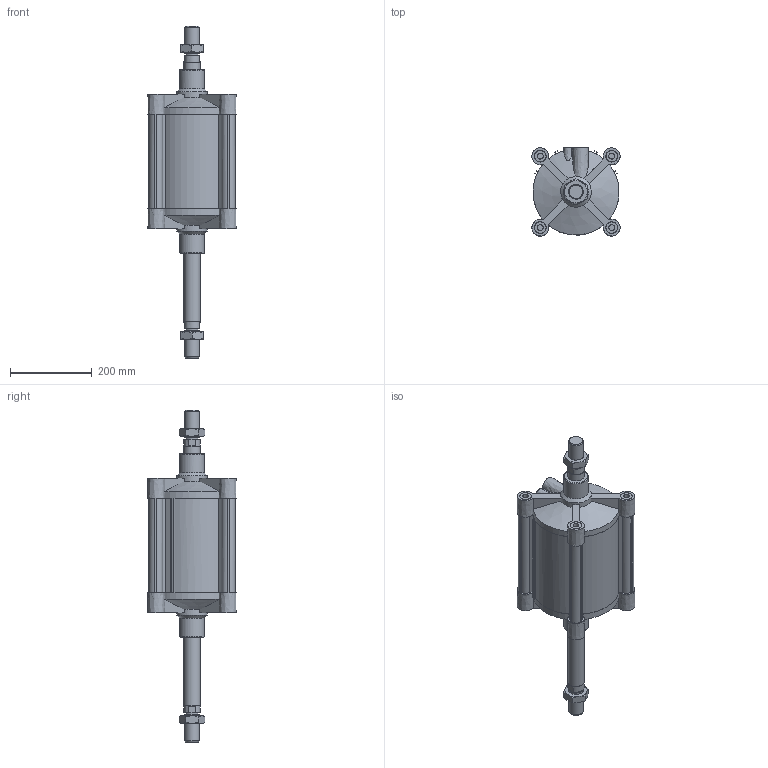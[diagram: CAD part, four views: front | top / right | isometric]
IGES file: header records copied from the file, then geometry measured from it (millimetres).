
Global section: file name: 139#_200_0150_02; native system: Autodesk Inventor 2014; preprocessor: unknown; author: F. Piloni; organization: Pneumax S.p.A.; date: 20151120.143208; units: millimetre
Bounding box: 216 x 216 x 814 mm (x, y, z)
Volume: 7658765.6 mm3; surface area: 1013274.8 mm2
Topology: 6 solids, 6 shells, 324 faces, 844 edges, 567 vertices
Faces by surface type: bspline 324
